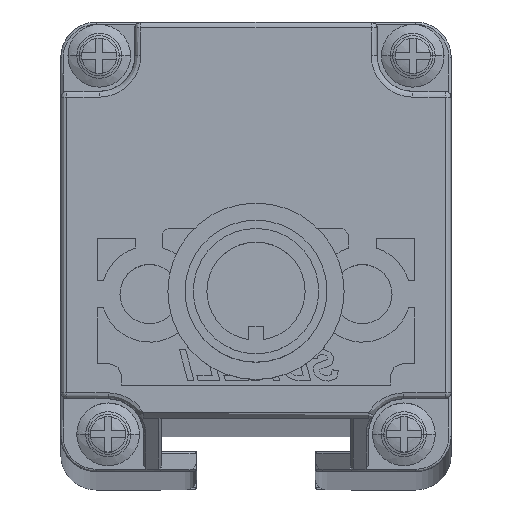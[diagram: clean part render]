
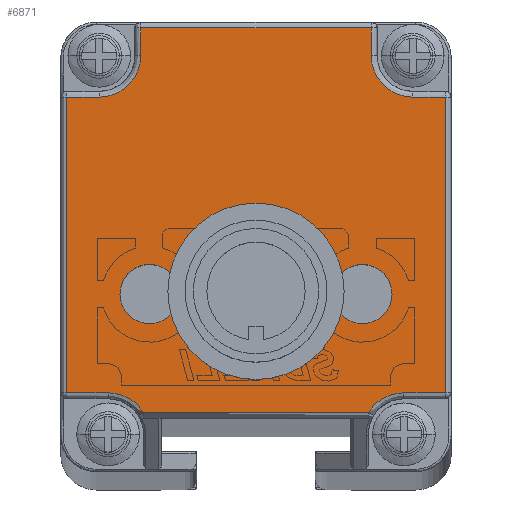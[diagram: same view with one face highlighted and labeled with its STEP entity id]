
A CAD part, top view. The second image highlights one B-rep face of the part: STEP entity #6871.
In plain terms, the highlighted planar face has unit normal (0, 0, 1).
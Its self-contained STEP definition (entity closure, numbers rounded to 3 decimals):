
#2781=CARTESIAN_POINT('',(0.65,-8.054,
765.276));
#2782=DIRECTION('',(0.,0.,1.));
#2783=DIRECTION('',(1.,0.,0.));
#2784=AXIS2_PLACEMENT_3D('',#2781,#2782,#2783);
#2786=CARTESIAN_POINT('',(0.65,-8.054,
765.276));
#2787=DIRECTION('',(0.,0.,1.));
#2788=DIRECTION('',(-1.,0.,0.));
#2789=AXIS2_PLACEMENT_3D('',#2786,#2787,#2788);
#2791=CARTESIAN_POINT('',(9.65,-8.055,765.276));
#2792=DIRECTION('',(0.,0.,1.));
#2793=DIRECTION('',(1.,-0.007,0.));
#2794=AXIS2_PLACEMENT_3D('',#2791,#2792,#2793);
#2796=CARTESIAN_POINT('',(9.65,-8.055,765.276));
#2797=DIRECTION('',(0.,0.,1.));
#2798=DIRECTION('',(-1.,0.007,0.));
#2799=AXIS2_PLACEMENT_3D('',#2796,#2797,#2798);
#2801=CARTESIAN_POINT('',(-8.35,-8.054,
765.276));
#2802=DIRECTION('',(0.,0.,1.));
#2803=DIRECTION('',(1.,0.007,0.));
#2804=AXIS2_PLACEMENT_3D('',#2801,#2802,#2803);
#2806=CARTESIAN_POINT('',(-8.35,-8.054,
765.276));
#2807=DIRECTION('',(0.,0.,1.));
#2808=DIRECTION('',(-1.,-0.007,0.));
#2809=AXIS2_PLACEMENT_3D('',#2806,#2807,#2808);
#2811=CARTESIAN_POINT('',(-11.85,-19.904,
765.276));
#2812=DIRECTION('',(0.,0.,1.));
#2813=DIRECTION('',(0.849,0.528,0.));
#2814=AXIS2_PLACEMENT_3D('',#2811,#2812,#2813);
#2816=CARTESIAN_POINT('',(-12.6,12.094,765.276));
#2817=DIRECTION('',(0.,0.,1.));
#2818=DIRECTION('',(0.,-1.,0.));
#2819=AXIS2_PLACEMENT_3D('',#2816,#2817,#2818);
#2821=CARTESIAN_POINT('',(13.9,12.094,765.276));
#2822=DIRECTION('',(0.,0.,1.));
#2823=DIRECTION('',(-1.,0.,0.));
#2824=AXIS2_PLACEMENT_3D('',#2821,#2822,#2823);
#2826=CARTESIAN_POINT('',(13.15,-19.904,765.276));
#2827=DIRECTION('',(0.,0.,1.));
#2828=DIRECTION('',(0.,1.,0.));
#2829=AXIS2_PLACEMENT_3D('',#2826,#2827,#2828);
#4540=DIRECTION('',(1.,0.,0.));
#4541=VECTOR('',#4540,19.056);
#4542=CARTESIAN_POINT('',(-8.878,-18.056,
765.276));
#4543=LINE('',#4542,#4541);
#4923=DIRECTION('',(0.,1.,0.));
#4924=VECTOR('',#4923,24.998);
#4925=CARTESIAN_POINT('',(16.65,-16.404,765.276));
#4926=LINE('',#4925,#4924);
#4946=DIRECTION('',(1.,0.,0.));
#4947=VECTOR('',#4946,3.5);
#4948=CARTESIAN_POINT('',(13.15,-16.404,765.276));
#4949=LINE('',#4948,#4947);
#4970=DIRECTION('',(-1.,0.,0.));
#4971=VECTOR('',#4970,2.75);
#4972=CARTESIAN_POINT('',(16.65,8.594,765.276));
#4973=LINE('',#4972,#4971);
#4997=DIRECTION('',(0.,1.,0.));
#4998=VECTOR('',#4997,2.35);
#4999=CARTESIAN_POINT('',(10.4,12.094,765.276));
#5000=LINE('',#4999,#4998);
#5208=DIRECTION('',(-1.,0.,0.));
#5209=VECTOR('',#5208,19.5);
#5210=CARTESIAN_POINT('',(10.4,14.444,765.276));
#5211=LINE('',#5210,#5209);
#5247=DIRECTION('',(0.,-1.,0.));
#5248=VECTOR('',#5247,2.35);
#5249=CARTESIAN_POINT('',(-9.1,14.444,765.276));
#5250=LINE('',#5249,#5248);
#5274=DIRECTION('',(-1.,0.,0.));
#5275=VECTOR('',#5274,2.75);
#5276=CARTESIAN_POINT('',(-12.6,8.594,765.276));
#5277=LINE('',#5276,#5275);
#5445=DIRECTION('',(0.,-1.,0.));
#5446=VECTOR('',#5445,24.998);
#5447=CARTESIAN_POINT('',(-15.35,8.594,765.276));
#5448=LINE('',#5447,#5446);
#5484=DIRECTION('',(1.,0.,0.));
#5485=VECTOR('',#5484,3.5);
#5486=CARTESIAN_POINT('',(-15.35,-16.404,
765.276));
#5487=LINE('',#5486,#5485);
#5955=CARTESIAN_POINT('',(12.15,-8.072,765.276));
#5956=VERTEX_POINT('',#5955);
#5957=CARTESIAN_POINT('',(7.15,-8.039,765.276));
#5958=VERTEX_POINT('',#5957);
#5959=CARTESIAN_POINT('',(-8.878,-18.056,
765.276));
#5960=CARTESIAN_POINT('',(-11.85,-16.404,
765.276));
#5961=VERTEX_POINT('',#5959);
#5962=VERTEX_POINT('',#5960);
#5963=CARTESIAN_POINT('',(-15.35,-16.404,
765.276));
#5964=VERTEX_POINT('',#5963);
#5965=CARTESIAN_POINT('',(-15.35,8.594,765.276));
#5966=VERTEX_POINT('',#5965);
#5967=CARTESIAN_POINT('',(-12.6,8.594,765.276));
#5968=VERTEX_POINT('',#5967);
#5969=CARTESIAN_POINT('',(-9.1,12.094,765.276));
#5970=VERTEX_POINT('',#5969);
#5971=CARTESIAN_POINT('',(-9.1,14.444,765.276));
#5972=VERTEX_POINT('',#5971);
#5973=CARTESIAN_POINT('',(10.4,14.444,765.276));
#5974=VERTEX_POINT('',#5973);
#5975=CARTESIAN_POINT('',(10.4,12.094,765.276));
#5976=VERTEX_POINT('',#5975);
#5977=CARTESIAN_POINT('',(13.9,8.594,765.276));
#5978=VERTEX_POINT('',#5977);
#5979=CARTESIAN_POINT('',(16.65,8.594,765.276));
#5980=VERTEX_POINT('',#5979);
#5981=CARTESIAN_POINT('',(16.65,-16.404,765.276));
#5982=VERTEX_POINT('',#5981);
#5983=CARTESIAN_POINT('',(13.15,-16.404,765.276));
#5984=VERTEX_POINT('',#5983);
#5985=CARTESIAN_POINT('',(10.178,-18.056,765.276));
#5986=VERTEX_POINT('',#5985);
#5987=CARTESIAN_POINT('',(-5.85,-8.037,
765.276));
#5988=CARTESIAN_POINT('',(-10.85,-8.07,
765.276));
#5989=VERTEX_POINT('',#5987);
#5990=VERTEX_POINT('',#5988);
#5991=CARTESIAN_POINT('',(3.65,-8.054,765.276));
#5992=CARTESIAN_POINT('',(-2.35,-8.054,
765.276));
#5993=VERTEX_POINT('',#5991);
#5994=VERTEX_POINT('',#5992);
#6820=CARTESIAN_POINT('',(0.65,0.944,
765.276));
#6821=DIRECTION('',(0.,0.,1.));
#6822=DIRECTION('',(1.,0.,0.));
#6823=AXIS2_PLACEMENT_3D('',#6820,#6821,#6822);
#6824=PLANE('',#6823);
#6826=ORIENTED_EDGE('',*,*,#6825,.T.);
#6828=ORIENTED_EDGE('',*,*,#6827,.F.);
#6830=ORIENTED_EDGE('',*,*,#6829,.F.);
#6832=ORIENTED_EDGE('',*,*,#6831,.F.);
#6834=ORIENTED_EDGE('',*,*,#6833,.T.);
#6836=ORIENTED_EDGE('',*,*,#6835,.F.);
#6838=ORIENTED_EDGE('',*,*,#6837,.F.);
#6840=ORIENTED_EDGE('',*,*,#6839,.F.);
#6842=ORIENTED_EDGE('',*,*,#6841,.T.);
#6844=ORIENTED_EDGE('',*,*,#6843,.F.);
#6846=ORIENTED_EDGE('',*,*,#6845,.F.);
#6848=ORIENTED_EDGE('',*,*,#6847,.F.);
#6850=ORIENTED_EDGE('',*,*,#6849,.T.);
#6852=ORIENTED_EDGE('',*,*,#6851,.F.);
#6853=EDGE_LOOP('',(#6826,#6828,#6830,#6832,#6834,#6836,#6838,#6840,#6842,#6844,
#6846,#6848,#6850,#6852));
#6854=FACE_OUTER_BOUND('',#6853,.F.);
#6855=ORIENTED_EDGE('',*,*,#6807,.T.);
#6856=ORIENTED_EDGE('',*,*,#6768,.T.);
#6857=EDGE_LOOP('',(#6855,#6856));
#6858=FACE_BOUND('',#6857,.F.);
#6860=ORIENTED_EDGE('',*,*,#6859,.T.);
#6862=ORIENTED_EDGE('',*,*,#6861,.T.);
#6863=EDGE_LOOP('',(#6860,#6862));
#6864=FACE_BOUND('',#6863,.F.);
#6866=ORIENTED_EDGE('',*,*,#6865,.T.);
#6868=ORIENTED_EDGE('',*,*,#6867,.T.);
#6869=EDGE_LOOP('',(#6866,#6868));
#6870=FACE_BOUND('',#6869,.F.);
#2785=CIRCLE('',#2784,3.);
#2790=CIRCLE('',#2789,3.);
#2795=CIRCLE('',#2794,2.5);
#2800=CIRCLE('',#2799,2.5);
#2805=CIRCLE('',#2804,2.5);
#2810=CIRCLE('',#2809,2.5);
#2815=CIRCLE('',#2814,3.5);
#2820=CIRCLE('',#2819,3.5);
#2825=CIRCLE('',#2824,3.5);
#2830=CIRCLE('',#2829,3.5);
#6768=EDGE_CURVE('',#5958,#5956,#2800,.T.);
#6807=EDGE_CURVE('',#5956,#5958,#2795,.T.);
#6825=EDGE_CURVE('',#5961,#5962,#2815,.T.);
#6827=EDGE_CURVE('',#5964,#5962,#5487,.T.);
#6829=EDGE_CURVE('',#5966,#5964,#5448,.T.);
#6831=EDGE_CURVE('',#5968,#5966,#5277,.T.);
#6833=EDGE_CURVE('',#5968,#5970,#2820,.T.);
#6835=EDGE_CURVE('',#5972,#5970,#5250,.T.);
#6837=EDGE_CURVE('',#5974,#5972,#5211,.T.);
#6839=EDGE_CURVE('',#5976,#5974,#5000,.T.);
#6841=EDGE_CURVE('',#5976,#5978,#2825,.T.);
#6843=EDGE_CURVE('',#5980,#5978,#4973,.T.);
#6845=EDGE_CURVE('',#5982,#5980,#4926,.T.);
#6847=EDGE_CURVE('',#5984,#5982,#4949,.T.);
#6849=EDGE_CURVE('',#5984,#5986,#2830,.T.);
#6851=EDGE_CURVE('',#5961,#5986,#4543,.T.);
#6859=EDGE_CURVE('',#5989,#5990,#2805,.T.);
#6861=EDGE_CURVE('',#5990,#5989,#2810,.T.);
#6865=EDGE_CURVE('',#5993,#5994,#2785,.T.);
#6867=EDGE_CURVE('',#5994,#5993,#2790,.T.);
#6871=ADVANCED_FACE('',(#6854,#6858,#6864,#6870),#6824,.T.);
